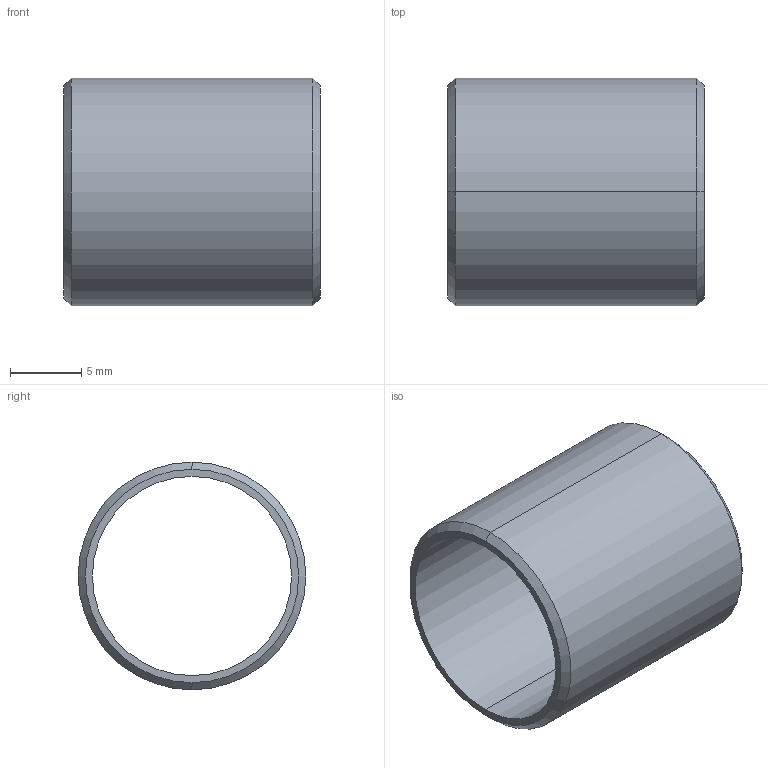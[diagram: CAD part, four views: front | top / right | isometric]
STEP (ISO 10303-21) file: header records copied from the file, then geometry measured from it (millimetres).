
FILE_DESCRIPTION (( 'STEP AP203' ), '1' );
FILE_NAME ('084.800.008.STEP', '2013-01-29T09:16:12', ( 'Alusic' ), ( 'Alusic' ), 'SwSTEP 2.0', 'SolidWorks 2011', '' );
FILE_SCHEMA (( 'CONFIG_CONTROL_DESIGN' ));
Length unit declared in the file: millimetre
Products named in the file (1): 084.800.008
Bounding box: 18 x 16 x 16 mm (x, y, z)
Volume: 835.9 mm3; surface area: 1760.6 mm2
Topology: 1 solids, 1 shells, 10 faces, 20 edges, 12 vertices
Faces by surface type: cone 4, cylinder 4, plane 2
Entity records: 345 total; most frequent: DIRECTION 54, CARTESIAN_POINT 43, ORIENTED_EDGE 40, AXIS2_PLACEMENT_3D 23, EDGE_CURVE 20, EDGE_LOOP 12, VERTEX_POINT 12, CIRCLE 12
